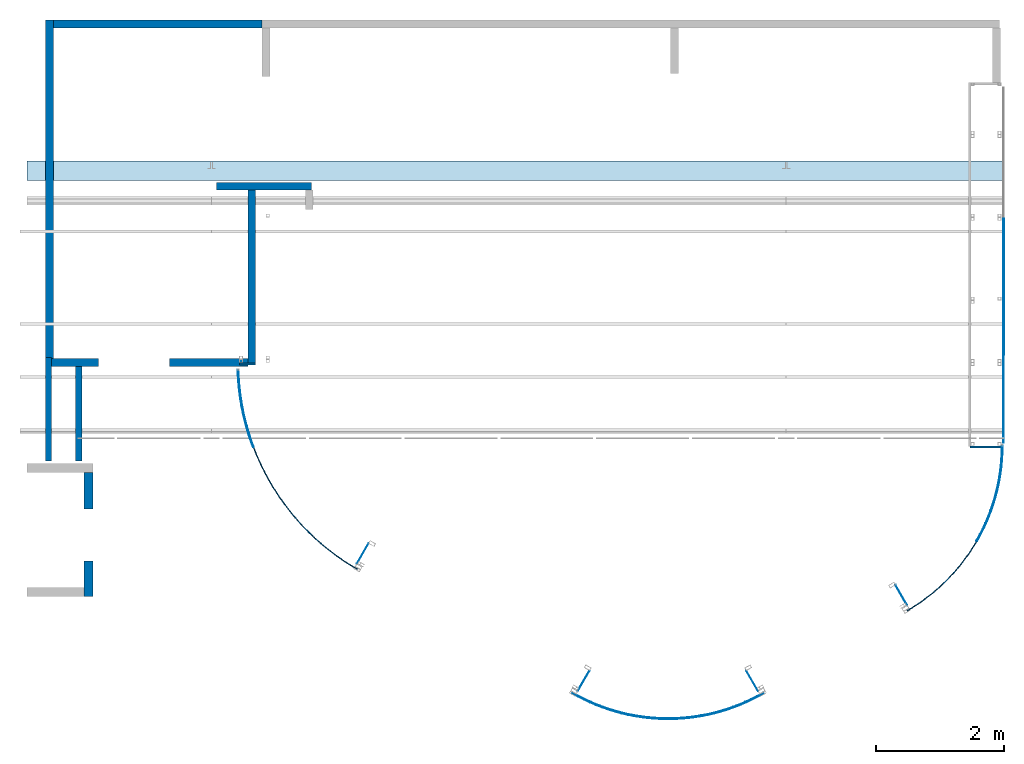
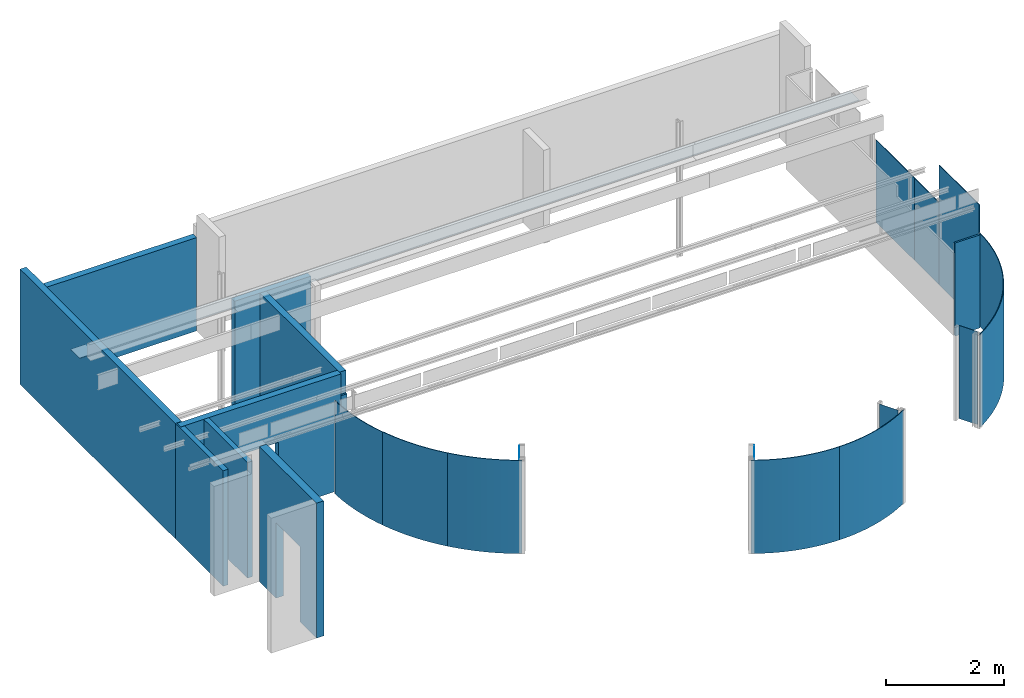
# One storey, part 7 of 11: 24 walls, 1 slab, 2 openings, 1 element without a shape of its own.
"""IFC2X3 building model written with IfcOpenShell, lengths in millimetres."""

from ifc_helpers import new_model, entity, si_unit, converted_unit, derived_unit, direction, frame, frame_2d, origin, origin_with_axes, origin_2d_with_axis, place, context, subcontext, project, spatial, polyline, circle_curve, parameter, trimmed, segment, composite_curve, rectangle, outline, extrude, clip, halfspace, bounded_halfspace, faceted_brep, material, layer, layer_set, layer_usage, type_object, element, aggregate, save


model = new_model("IFC2X3")

# Units and contexts
model_context = context("Model", 3, precision=0.01, world=frame((0.0, 4.29681676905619e-09, 0.0)), true_north=direction((4.01073788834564e-13, 1.0)))
plan_context = context("Plan", 3, precision=0.01, world=frame((0.0, 4.29681676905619e-09, 0.0)), true_north=direction((4.01073788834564e-13, 1.0)))
body_context = subcontext(model_context, "Body", "Model", "MODEL_VIEW")
ifc_project = project(units=[converted_unit("PLANEANGLEUNIT", "DEGREE", entity("IfcPositiveLengthMeasure", 0.0174532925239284), si_unit("PLANEANGLEUNIT", "RADIAN"), dimensions=[0, 0, 0, 0, 0, 0, 0]), si_unit("AREAUNIT", "SQUARE_METRE"), si_unit("LENGTHUNIT", "METRE", prefix="MILLI"), si_unit("MASSUNIT", "GRAM", prefix="KILO"), si_unit("POWERUNIT", "WATT"), si_unit("PRESSUREUNIT", "PASCAL"), si_unit("FORCEUNIT", "NEWTON", prefix="KILO"), si_unit("ELECTRICVOLTAGEUNIT", "VOLT"), si_unit("ELECTRICCURRENTUNIT", "AMPERE"), si_unit("THERMODYNAMICTEMPERATUREUNIT", "DEGREE_CELSIUS"), si_unit("TIMEUNIT", "SECOND"), si_unit("VOLUMEUNIT", "CUBIC_METRE"), derived_unit("LINEARVELOCITYUNIT", [(si_unit("LENGTHUNIT", "METRE"), 1), (si_unit("TIMEUNIT", "SECOND"), -1)]), derived_unit("VOLUMETRICFLOWRATEUNIT", [(si_unit("VOLUMEUNIT", "CUBIC_METRE"), 1), (si_unit("TIMEUNIT", "SECOND"), -1)]), derived_unit("THERMALTRANSMITTANCEUNIT", [(si_unit("POWERUNIT", "WATT"), 1), (si_unit("THERMODYNAMICTEMPERATUREUNIT", "KELVIN"), -1), (si_unit("AREAUNIT", "SQUARE_METRE"), -1)]), derived_unit("SOUNDPRESSUREUNIT", [(si_unit("PRESSUREUNIT", "PASCAL"), 1)])], contexts=[model_context, plan_context])

# Site, building, storey
site_placement = place(None, origin_with_axes())
site = spatial("IfcSite", under=ifc_project, at=site_placement, Name="ENGM", CompositionType="ELEMENT")
building_placement = place(site_placement, origin_with_axes())
building = spatial("IfcBuilding", under=site, at=building_placement, Name="TH", CompositionType="ELEMENT")
storey_placement = place(building_placement, frame((0.0, 0.0, 210900.0), z_axis=(0.0, 0.0, 1.0), x_axis=(1.0, 0.0, 0.0)))
storey = spatial("IfcBuildingStorey", under=building, at=storey_placement, Name="Nivå F", CompositionType="ELEMENT", Elevation=210900.0)

# Roof, slab
ifc_material_1 = material(Name="_NSW X-finer med skarvur horrisontal")
roof_placement = place(storey_placement, origin_with_axes())
roof = element("IfcRoof", 1, at=roof_placement, inside=storey, material=ifc_material_1, Name="A255 - X-finer 7 - 18mm:A255 - X-finer 7 - 18mm", ObjectType="A255 - X-finer 7 - 18mm:A255 - X-finer 7 - 18mm", ShapeType="NOTDEFINED")
slab_type = type_object("IfcSlabType", Name="A255 - X-finer 7 - 18mm:A255 - X-finer 7 - 18mm", PredefinedType="ROOF")
slab_placement = place(roof_placement, origin_with_axes())
slab = element("IfcSlab", 2, at=slab_placement, type_object=slab_type, Name="A255 - X-finer 7 - 18mm:A255 - X-finer 7 - 18mm:1", ObjectType="A255 - X-finer 7 - 18mm:A255 - X-finer 7 - 18mm", PredefinedType="ROOF", context=body_context, shape_type="Brep", body=[
    faceted_brep([(895111.906168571, 484840.299999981, 2154.0), (895111.906168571, 484840.299999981, 2172.0), (910410.5848418, 484840.299999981, 2172.0), (910410.5848418, 484840.299999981, 2154.0), (910410.5848418, 485150.507291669, 2154.0), (910410.5848418, 485150.507291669, 2172.0), (895111.906168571, 485150.507291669, 2172.0), (895111.906168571, 485150.507291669, 2154.0)], [[[0, 1, 2, 3]], [[4, 5, 6, 7]], [[7, 0, 3, 4]], [[1, 6, 5, 2]], [[5, 4, 3, 2]], [[7, 6, 1, 0]]], orient=[[False], [False], [False], [False], [False], [False]]),
])
aggregate(roof, [slab])

# Wall, opening
ifc_material_2 = material(Name="T2_Gips Protect F")
ifc_layer_1 = layer(ifc_material_2, 15.0)
ifc_material_3 = material(Name="T2_Gips Standard")
ifc_layer_2 = layer(ifc_material_3, 12.5)
ifc_material_4 = material(Name="_NSW Stålstender, uisolert")
ifc_layer_3 = layer(ifc_material_4, 100.0)
ifc_layer_4 = layer(ifc_material_2, 15.0)
ifc_layer_set_1 = layer_set([ifc_layer_1, ifc_layer_2, ifc_layer_3, ifc_layer_4], Name="Basic Wall:A241 - FSVF-100 (100/100 ps-p)")
ifc_layer_usage_1 = layer_usage(ifc_layer_set_1, "AXIS2", "NEGATIVE", 71.25)
wall_type_1 = type_object("IfcWallType", Name="Basic Wall:A241 - FSVF-100 (100/100 ps-p)", PredefinedType="STANDARD", material=ifc_layer_set_1)
wall_1_placement = place(storey_placement, frame((896071.249999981, 480271.249999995, 0.0), z_axis=(0.0, 0.0, 1.0), x_axis=(0.0, -1.0, 0.0)))
wall_1 = element("IfcWallStandardCase", 3, at=wall_1_placement, inside=storey, type_object=wall_type_1, material=ifc_layer_usage_1, Name="Basic Wall:A241 - FSVF-100 (100/100 ps-p)", ObjectType="Basic Wall:A241 - FSVF-100 (100/100 ps-p)", context=body_context, shape_type="Clipping", body=[
    clip(extrude(rectangle(XDim=1944.99999999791, YDim=142.500000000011, at=frame_2d((972.499999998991, -2.03712602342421e-11), x_axis=(1.0, 0.0))), origin(), (0.0, 0.0, 1.0), 2799.99999999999), halfspace(frame((0.0, 0.0, -700.0)), True)),
])
opening_1_placement = place(wall_1_placement, frame((480271.249999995, -896071.249999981, -700.0), z_axis=(0.0, 0.0, 1.0), x_axis=(0.0, 1.0, 0.0)))
element("IfcOpeningElement", 4, at=opening_1_placement, cuts=wall_1, Name="Basic Wall:A241 - FSVF-100 (100/100 ps-p)", ObjectType="Opening", context=body_context, shape_type="SweptSolid", body=[
    extrude(rectangle(XDim=2259.99999999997, YDim=809.999999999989, at=frame_2d((0.0, 0.0), x_axis=(0.0, 1.0))), frame((894475.999999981, 479292.512500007, 1130.0), z_axis=(1.0, 0.0, 0.0), x_axis=(0.0, 1.0, 0.0)), (0.0, 0.0, 1.0), 3048.0),
])

# Walls
ifc_material_5 = material(Name="Glass(Avinor)")
ifc_layer_5 = layer(ifc_material_5, 14.0)
ifc_layer_set_2 = layer_set([ifc_layer_5], Name="Basic Wall:A242 - IGV Glass 14mm")
ifc_layer_usage_2 = layer_usage(ifc_layer_set_2, "AXIS2", "POSITIVE", -7.0)
wall_type_2 = type_object("IfcWallType", Name="Basic Wall:A242 - IGV Glass 14mm", PredefinedType="STANDARD", material=ifc_layer_set_2)
wall_2_placement = place(storey_placement, frame((898656.201468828, 480668.98362984, 0.0), z_axis=(0.0, 0.0, 1.0), x_axis=(0.999801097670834, 0.0199440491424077, 0.0)))
element("IfcWallStandardCase", 5, at=wall_2_placement, inside=storey, type_object=wall_type_2, material=ifc_layer_usage_2, Name="Basic Wall:A242 - IGV Glass 14mm", ObjectType="Basic Wall:A242 - IGV Glass 14mm", context=body_context, shape_type="Clipping", body=[
    clip(clip(extrude(outline(composite_curve([segment(trimmed(circle_curve(frame_2d((3519.43879128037, 1250.51013366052), x_axis=(1.0, 0.0)), 3741.99999999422), [parameter(180.584579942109)], [parameter(199.560899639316)], True, "PARAMETER"), True, "CONTINUOUS"), segment(polyline([(-6.59600308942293, -2.34366022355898), (6.59600308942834, 2.3436602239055)]), True, "CONTINUOUS"), segment(trimmed(circle_curve(frame_2d((3519.43879128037, 1250.51013366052), x_axis=(1.0, 0.0)), 3727.99999999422), [parameter(180.584579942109)], [parameter(199.560899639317)], True, "PARAMETER"), False, "CONTINUOUS"), segment(polyline([(-208.367171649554, 1212.47458841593), (-222.366442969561, 1212.33175106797)]), True, "CONTINUOUS")], self_intersect=False)), origin(), (0.0, 0.0, 1.0), 1929.99999999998), bounded_halfspace(frame((6.59600308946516, 2.3436602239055, 1930.0), z_axis=(-0.334808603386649, 0.942286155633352, 0.0), x_axis=(0.0, 0.0, -1.0)), True, frame((6.59600308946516, 2.3436602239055, 1930.0), z_axis=(-0.334808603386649, 0.942286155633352, 0.0), x_axis=(0.0, 0.0, -1.0)), polyline([(0.0, 0.0), (2630.0, 0.0), (2630.0, 14.0), (0.0, 14.0), (0.0, 0.0)]))), halfspace(frame((0.0, 0.0, -700.0)), True)),
])
ifc_layer_usage_3 = layer_usage(ifc_layer_set_2, "AXIS2", "POSITIVE", -7.0)
wall_3_placement = place(storey_placement, frame((899298.353254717, 479577.31421084, 0.0), z_axis=(0.0, 0.0, 1.0), x_axis=(0.999922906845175, 0.0124169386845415, 0.0)))
element("IfcWallStandardCase", 6, at=wall_3_placement, inside=storey, type_object=wall_type_2, material=ifc_layer_usage_3, Name="Basic Wall:A242 - IGV Glass 14mm", ObjectType="Basic Wall:A242 - IGV Glass 14mm", context=body_context, shape_type="Clipping", body=[
    clip(extrude(outline(composite_curve([segment(trimmed(circle_curve(frame_2d((2881.37808227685, 2376.52800255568), x_axis=(1.0, 0.0)), 3741.99999999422), [parameter(199.992228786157)], [parameter(219.515425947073)], True, "PARAMETER"), True, "CONTINUOUS"), segment(polyline([(-5.40017311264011, -4.4540016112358), (5.40017311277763, 4.4540016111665)]), True, "CONTINUOUS"), segment(trimmed(circle_curve(frame_2d((2881.37808227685, 2376.52800255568), x_axis=(1.0, 0.0)), 3727.99999999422), [parameter(199.992228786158)], [parameter(219.515425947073)], True, "PARAMETER"), False, "CONTINUOUS"), segment(polyline([(-621.968915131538, 1101.95206691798), (-635.125261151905, 1097.16556930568)]), True, "CONTINUOUS")], self_intersect=False)), origin(), (0.0, 0.0, 1.0), 1934.99999999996), halfspace(frame((0.0, 0.0, -700.0)), True)),
])
ifc_layer_usage_4 = layer_usage(ifc_layer_set_2, "AXIS2", "POSITIVE", -7.0)
wall_4_placement = place(storey_placement, frame((900282.500000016, 478754.832011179, 0.0), z_axis=(0.0, 0.0, 1.0), x_axis=(0.999992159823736, 0.00395983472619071, 0.0)))
element("IfcWallStandardCase", 7, at=wall_4_placement, inside=storey, type_object=wall_type_2, material=ifc_layer_usage_4, Name="Basic Wall:A242 - IGV Glass 14mm", ObjectType="Basic Wall:A242 - IGV Glass 14mm", context=body_context, shape_type="Clipping", body=[
    clip(extrude(outline(composite_curve([segment(trimmed(circle_curve(frame_2d((1880.29385917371, 3227.18453192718), x_axis=(1.0, 0.0)), 3741.99999999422), [parameter(220.000000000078)], [parameter(239.773117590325)], True, "PARAMETER"), True, "CONTINUOUS"), segment(polyline([(-3.52397778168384, -6.0482708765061), (3.52397778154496, 6.0482708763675)]), True, "CONTINUOUS"), segment(trimmed(circle_curve(frame_2d((1880.29385917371, 3227.18453192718), x_axis=(1.0, 0.0)), 3727.99999999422), [parameter(220.000000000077)], [parameter(239.773117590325)], True, "PARAMETER"), False, "CONTINUOUS"), segment(polyline([(-975.519824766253, 830.872323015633), (-986.244446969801, 821.873296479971)]), True, "CONTINUOUS")], self_intersect=False)), origin(), (0.0, 0.0, 1.0), 1935.00000000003), halfspace(frame((0.0, 0.0, -700.0)), True)),
])
ifc_layer_usage_5 = layer_usage(ifc_layer_set_2, "AXIS2", "NEGATIVE", 7.0)
wall_5_placement = place(storey_placement, frame((903655.028382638, 476813.265972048, 0.0), z_axis=(0.0, 0.0, 1.0), x_axis=(1.0, 0.0, 0.0)))
element("IfcWallStandardCase", 8, at=wall_5_placement, inside=storey, type_object=wall_type_2, material=ifc_layer_usage_5, Name="Basic Wall:A242 - IGV Glass 14mm", ObjectType="Basic Wall:A242 - IGV Glass 14mm", context=body_context, shape_type="Clipping", body=[
    clip(extrude(outline(composite_curve([segment(trimmed(circle_curve(frame_2d((1493.59777639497, 2584.02466175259), x_axis=(1.0, 0.0)), 2977.63025686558), [parameter(239.971563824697)], [parameter(270.007668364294)], True, "PARAMETER"), False, "CONTINUOUS"), segment(polyline([(3.50300825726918, 6.06044001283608), (-3.50300825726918, -6.06044001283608)]), True, "CONTINUOUS"), segment(trimmed(circle_curve(frame_2d((1493.59777639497, 2584.02466175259), x_axis=(1.0, 0.0)), 2991.63025686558), [parameter(239.971563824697)], [parameter(270.007668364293)], True, "PARAMETER"), True, "CONTINUOUS"), segment(polyline([(1493.99817081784, -407.605568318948), (1493.99629708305, -393.605568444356)]), True, "CONTINUOUS")], self_intersect=False)), origin(), (0.0, 0.0, 1.0), 1934.99999999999), halfspace(frame((0.0, 0.0, -700.0)), True)),
])
ifc_layer_usage_6 = layer_usage(ifc_layer_set_2, "AXIS2", "NEGATIVE", 7.0)
wall_6_placement = place(storey_placement, frame((905149.025616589, 476412.660403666, 0.0), z_axis=(0.0, 0.0, 1.0), x_axis=(1.0, 0.0, 0.0)))
element("IfcWallStandardCase", 9, at=wall_6_placement, inside=storey, type_object=wall_type_2, material=ifc_layer_usage_6, Name="Basic Wall:A242 - IGV Glass 14mm", ObjectType="Basic Wall:A242 - IGV Glass 14mm", context=body_context, shape_type="Clipping", body=[
    clip(extrude(outline(composite_curve([segment(trimmed(circle_curve(frame_2d((-0.399457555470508, 2984.63023013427), x_axis=(1.0, 0.0)), 2977.63025686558), [parameter(270.007668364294)], [parameter(300.028436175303)], True, "PARAMETER"), False, "CONTINUOUS"), segment(polyline([(-0.000936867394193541, 6.99999993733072), (0.000936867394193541, -6.99999993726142)]), True, "CONTINUOUS"), segment(trimmed(circle_curve(frame_2d((-0.399457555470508, 2984.63023013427), x_axis=(1.0, 0.0)), 2991.63025686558), [parameter(270.007668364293)], [parameter(300.028436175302)], True, "PARAMETER"), True, "CONTINUOUS"), segment(polyline([(1496.70132709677, 394.54512836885), (1489.69531058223, 406.666008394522)]), True, "CONTINUOUS")], self_intersect=False)), origin(), (0.0, 0.0, 1.0), 1934.99999999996), halfspace(frame((0.0, 0.0, -700.0)), True)),
])
ifc_layer_usage_7 = layer_usage(ifc_layer_set_2, "AXIS2", "POSITIVE", -7.0)
wall_7_placement = place(storey_placement, frame((910384.985262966, 480690.397378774, 0.0), z_axis=(0.0, 0.0, 1.0), x_axis=(1.0, 0.0, 0.0)))
element("IfcWallStandardCase", 10, at=wall_7_placement, inside=storey, type_object=wall_type_2, material=ifc_layer_usage_7, Name="Basic Wall:A242 - IGV Glass 14mm", ObjectType="Basic Wall:A242 - IGV Glass 14mm", context=body_context, shape_type="Clipping", body=[
    clip(extrude(outline(composite_curve([segment(trimmed(circle_curve(frame_2d((-2985.0, -0.00709854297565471), x_axis=(1.0, 0.0)), 2992.0), [parameter(330.002379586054)], [parameter(0.000136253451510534)], True, "PARAMETER"), True, "CONTINUOUS"), segment(polyline([(7.0, 1.66464918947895e-05), (-7.0, -1.66464918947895e-05)]), True, "CONTINUOUS"), segment(trimmed(circle_curve(frame_2d((-2985.0, -0.00709854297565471), x_axis=(1.0, 0.0)), 2978.0), [parameter(330.002379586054)], [parameter(0.000136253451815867)], True, "PARAMETER"), False, "CONTINUOUS"), segment(polyline([(-405.914509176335, -1488.89998625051), (-393.789862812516, -1495.89948270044)]), True, "CONTINUOUS")], self_intersect=False)), origin(), (0.0, 0.0, 1.0), 1934.99999999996), halfspace(frame((0.0, 0.0, -700.0)), True)),
])
ifc_layer_usage_8 = layer_usage(ifc_layer_set_2, "AXIS2", "POSITIVE", -7.0)
wall_8_placement = place(storey_placement, frame((909985.133076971, 479197.997644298, 0.0), z_axis=(0.0, 0.0, 1.0), x_axis=(1.0, 0.0, 0.0)))
element("IfcWallStandardCase", 11, at=wall_8_placement, inside=storey, type_object=wall_type_2, material=ifc_layer_usage_8, Name="Basic Wall:A242 - IGV Glass 14mm", ObjectType="Basic Wall:A242 - IGV Glass 14mm", context=body_context, shape_type="Clipping", body=[
    clip(extrude(outline(composite_curve([segment(trimmed(circle_curve(frame_2d((-2585.14781399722, 1492.3926359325), x_axis=(1.0, 0.0)), 2992.0), [parameter(300.000323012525)], [parameter(330.002379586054)], True, "PARAMETER"), True, "CONTINUOUS"), segment(polyline([(6.06232318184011, -3.4997482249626), (-6.06232318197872, 3.4997482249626)]), True, "CONTINUOUS"), segment(trimmed(circle_curve(frame_2d((-2585.14781399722, 1492.3926359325), x_axis=(1.0, 0.0)), 2978.0), [parameter(300.000323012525)], [parameter(330.002379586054)], True, "PARAMETER"), False, "CONTINUOUS"), segment(polyline([(-1096.13327443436, -1086.62262206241), (-1089.13320608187, -1098.74693825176)]), True, "CONTINUOUS")], self_intersect=False)), origin(), (0.0, 0.0, 1.0), 1934.99999999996), halfspace(frame((0.0, 0.0, -700.0)), True)),
])
ifc_material_6 = material(Name="Kledning")
ifc_layer_6 = layer(ifc_material_6, 14.0)
ifc_layer_set_3 = layer_set([ifc_layer_6], Name="Basic Wall:A242 - IGV Glass Opal 14mm")
ifc_layer_usage_9 = layer_usage(ifc_layer_set_3, "AXIS2", "NEGATIVE", 7.0)
wall_type_3 = type_object("IfcWallType", Name="Basic Wall:A242 - IGV Glass Opal 14mm", PredefinedType="STANDARD", material=ifc_layer_set_3)
wall_9_placement = place(storey_placement, frame((910403.5848418, 480739.436894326, 0.0), z_axis=(0.0, 0.0, 1.0), x_axis=(0.0, 1.0, 0.0)))
element("IfcWallStandardCase", 12, at=wall_9_placement, inside=storey, type_object=wall_type_3, material=ifc_layer_usage_9, Name="Basic Wall:A242 - IGV Glass Opal 14mm", ObjectType="Basic Wall:A242 - IGV Glass Opal 14mm", context=body_context, shape_type="Clipping", body=[
    clip(extrude(rectangle(XDim=1371.86310576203, YDim=13.9999999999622, at=frame_2d((685.931552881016, 0.0), x_axis=(-1.0, 0.0))), origin(), (0.0, 0.0, 1.0), 2484.99999999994), halfspace(frame((0.0, 0.0, -700.0)), True)),
])
ifc_layer_usage_10 = layer_usage(ifc_layer_set_3, "AXIS2", "POSITIVE", -7.0)
wall_10_placement = place(storey_placement, frame((910404.000000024, 482940.300000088, 0.0), z_axis=(0.0, 0.0, 1.0), x_axis=(0.0, 1.0, 0.0)))
element("IfcWallStandardCase", 13, at=wall_10_placement, inside=storey, type_object=wall_type_3, material=ifc_layer_usage_10, Name="Basic Wall:A242 - IGV Glass Opal 14mm", ObjectType="Basic Wall:A242 - IGV Glass Opal 14mm", context=body_context, shape_type="Clipping", body=[
    clip(extrude(rectangle(XDim=1301.99999999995, YDim=13.9999999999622, at=frame_2d((650.999999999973, 0.0), x_axis=(-1.0, 0.0))), origin(), (0.0, 0.0, 1.0), 1705.65796731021), halfspace(frame((0.0, 0.0, -700.0)), True)),
])
ifc_layer_usage_11 = layer_usage(ifc_layer_set_3, "AXIS2", "POSITIVE", -7.0)
wall_11_placement = place(storey_placement, frame((910404.000000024, 482111.300000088, 0.0), z_axis=(0.0, 0.0, 1.0), x_axis=(0.0, 1.0, 0.0)))
element("IfcWallStandardCase", 14, at=wall_11_placement, inside=storey, type_object=wall_type_3, material=ifc_layer_usage_11, Name="Basic Wall:A242 - IGV Glass Opal 14mm", ObjectType="Basic Wall:A242 - IGV Glass Opal 14mm", context=body_context, shape_type="SweptSolid", body=[
    extrude(rectangle(XDim=13.9999999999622, YDim=829.000000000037, at=origin_2d_with_axis()), frame((414.500000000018, 0.0, 0.0), z_axis=(0.0, 0.0, 1.0), x_axis=(0.0, 1.0, 0.0)), (0.0, 0.0, 1.0), 1705.65796731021),
])
ifc_layer_7 = layer(ifc_material_2, 12.5)
ifc_material_7 = material(Name="T2_X-finer")
ifc_layer_8 = layer(ifc_material_7, 12.0)
ifc_layer_9 = layer(ifc_material_7, 12.0)
ifc_layer_set_4 = layer_set([ifc_layer_7, ifc_layer_8, ifc_layer_9], Name="Basic Wall:A241 - FFS")
ifc_layer_usage_12 = layer_usage(ifc_layer_set_4, "AXIS2", "NEGATIVE", 18.25)
wall_type_4 = type_object("IfcWallType", Name="Basic Wall:A241 - FFS", PredefinedType="STANDARD", material=ifc_layer_set_4)
wall_12_placement = place(storey_placement, frame((910365.000000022, 480671.186894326, 0.0), z_axis=(0.0, 0.0, 1.0), x_axis=(-1.0, 0.0, 0.0)))
element("IfcWallStandardCase", 15, at=wall_12_placement, inside=storey, type_object=wall_type_4, material=ifc_layer_usage_12, Name="Basic Wall:A241 - FFS", ObjectType="Basic Wall:A241 - FFS", context=body_context, shape_type="Clipping", body=[
    clip(extrude(rectangle(XDim=488.601762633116, YDim=36.5000000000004, at=frame_2d((244.300881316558, 0.0), x_axis=(-1.0, 0.0))), origin(), (0.0, 0.0, 1.0), 1929.99999999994), halfspace(frame((0.0, 0.0, -700.0)), True)),
])
ifc_layer_usage_13 = layer_usage(ifc_layer_set_4, "AXIS2", "POSITIVE", -18.25)
wall_13_placement = place(storey_placement, frame((898434.999999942, 481971.186894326, 0.0), z_axis=(0.0, 0.0, 1.0), x_axis=(1.0, 0.0, 0.0)))
element("IfcWallStandardCase", 16, at=wall_13_placement, inside=storey, type_object=wall_type_4, material=ifc_layer_usage_13, Name="Basic Wall:A241 - FFS", ObjectType="Basic Wall:A241 - FFS", context=body_context, shape_type="Clipping", body=[
    clip(extrude(rectangle(XDim=257.141536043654, YDim=36.5000000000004, at=frame_2d((128.570768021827, 0.0), x_axis=(-1.0, 0.0))), origin(), (0.0, 0.0, 1.0), 1929.99999999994), halfspace(frame((0.0, 0.0, -700.0)), True)),
])
ifc_material_8 = material(Name="T2 Stål Galvanisert")
ifc_layer_10 = layer(ifc_material_8, 5.0)
ifc_layer_set_5 = layer_set([ifc_layer_10], Name="Basic Wall:A245 - MP-5 Metallplate 5mm")
ifc_layer_usage_14 = layer_usage(ifc_layer_set_5, "AXIS2", "POSITIVE", -2.5)
wall_type_5 = type_object("IfcWallType", Name="Basic Wall:A245 - MP-5 Metallplate 5mm", PredefinedType="STANDARD", material=ifc_layer_set_5)
wall_14_placement = place(storey_placement, frame((908896.591993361, 478188.530285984, 0.0), z_axis=(0.0, 0.0, 1.0), x_axis=(-0.50000000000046, 0.866025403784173, 0.0)))
element("IfcWallStandardCase", 17, at=wall_14_placement, inside=storey, type_object=wall_type_5, material=ifc_layer_usage_14, Name="Basic Wall:A245 - MP-5 Metallplate 5mm", ObjectType="Basic Wall:A245 - MP-5 Metallplate 5mm", context=body_context, shape_type="Clipping", body=[
    clip(extrude(rectangle(XDim=369.997631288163, YDim=5.00000000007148, at=frame_2d((184.998815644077, -7.7333472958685e-11), x_axis=(-1.0, 0.0))), origin(), (0.0, 0.0, 1.0), 1929.99999999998), halfspace(frame((0.0, 0.0, -700.0)), True)),
])
ifc_layer_usage_15 = layer_usage(ifc_layer_set_5, "AXIS2", "NEGATIVE", 2.5)
wall_15_placement = place(storey_placement, frame((906561.298267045, 476847.37767056, 0.0), z_axis=(0.0, 0.0, 1.0), x_axis=(-0.500000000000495, 0.866025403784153, 0.0)))
element("IfcWallStandardCase", 18, at=wall_15_placement, inside=storey, type_object=wall_type_5, material=ifc_layer_usage_15, Name="Basic Wall:A245 - MP-5 Metallplate 5mm", ObjectType="Basic Wall:A245 - MP-5 Metallplate 5mm", context=body_context, shape_type="Clipping", body=[
    clip(extrude(rectangle(XDim=369.997631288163, YDim=5.00000000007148, at=frame_2d((184.998815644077, -7.7333472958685e-11), x_axis=(-1.0, 0.0))), origin(), (0.0, 0.0, 1.0), 1929.99999999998), halfspace(frame((0.0, 0.0, -700.0)), True)),
])
ifc_layer_usage_16 = layer_usage(ifc_layer_set_5, "AXIS2", "POSITIVE", -2.5)
wall_16_placement = place(storey_placement, frame((903734.915502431, 476847.976300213, 0.0), z_axis=(0.0, 0.0, 1.0), x_axis=(0.500000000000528, 0.866025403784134, 0.0)))
element("IfcWallStandardCase", 19, at=wall_16_placement, inside=storey, type_object=wall_type_5, material=ifc_layer_usage_16, Name="Basic Wall:A245 - MP-5 Metallplate 5mm", ObjectType="Basic Wall:A245 - MP-5 Metallplate 5mm", context=body_context, shape_type="Clipping", body=[
    clip(extrude(rectangle(XDim=369.997631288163, YDim=5.00000000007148, at=frame_2d((184.998815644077, -7.7333472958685e-11), x_axis=(-1.0, 0.0))), origin(), (0.0, 0.0, 1.0), 1929.99999999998), halfspace(frame((0.0, 0.0, -700.0)), True)),
])
ifc_layer_usage_17 = layer_usage(ifc_layer_set_5, "AXIS2", "NEGATIVE", 2.5)
wall_17_placement = place(storey_placement, frame((900275.401569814, 478839.91679196, 0.0), z_axis=(0.0, 0.0, 1.0), x_axis=(0.500000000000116, 0.866025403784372, 0.0)))
element("IfcWallStandardCase", 20, at=wall_17_placement, inside=storey, type_object=wall_type_5, material=ifc_layer_usage_17, Name="Basic Wall:A245 - MP-5 Metallplate 5mm", ObjectType="Basic Wall:A245 - MP-5 Metallplate 5mm", context=body_context, shape_type="Clipping", body=[
    clip(extrude(rectangle(XDim=369.997631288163, YDim=5.00000000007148, at=frame_2d((184.998815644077, -7.7333472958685e-11), x_axis=(-1.0, 0.0))), origin(), (0.0, 0.0, 1.0), 1929.99999999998), halfspace(frame((0.0, 0.0, -700.0)), True)),
])

# Wall, opening
ifc_material_9 = material(Name="Plate - Gips")
ifc_layer_11 = layer(ifc_material_9, 12.5)
ifc_material_10 = material(Name="_NSW X-finer")
ifc_layer_12 = layer(ifc_material_10, 12.5)
ifc_material_11 = material(Name="_NSW Isolasjon")
ifc_layer_13 = layer(ifc_material_11, 75.0)
ifc_layer_14 = layer(ifc_material_10, 12.5)
ifc_layer_15 = layer(ifc_material_9, 12.5)
ifc_layer_set_6 = layer_set([ifc_layer_11, ifc_layer_12, ifc_layer_13, ifc_layer_14, ifc_layer_15], Name="Basic Wall:A241 - SXVXS-75")
ifc_layer_usage_18 = layer_usage(ifc_layer_set_6, "AXIS2", "NEGATIVE", 62.5)
wall_type_6 = type_object("IfcWallType", Name="Basic Wall:A241 - SXVXS-75", PredefinedType="STANDARD", material=ifc_layer_set_6)
wall_18_placement = place(storey_placement, frame((898567.141535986, 481996.201352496, 0.0), z_axis=(0.0, 0.0, 1.0), x_axis=(-1.0, 0.0, 0.0)))
wall_18 = element("IfcWallStandardCase", 21, at=wall_18_placement, inside=storey, type_object=wall_type_6, material=ifc_layer_usage_18, Name="Basic Wall:A241 - SXVXS-75", ObjectType="Basic Wall:A241 - SXVXS-75", context=body_context, shape_type="Clipping", body=[
    clip(extrude(rectangle(XDim=3145.89153581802, YDim=124.999999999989, at=frame_2d((1572.94576790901, 3.46496165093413e-11), x_axis=(1.0, 0.0))), origin(), (0.0, 0.0, 1.0), 2399.99999999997), halfspace(frame((0.0, 0.0, -700.0)), True)),
])
opening_2_placement = place(wall_18_placement, frame((898567.141535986, 481996.201352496, -700.0), z_axis=(0.0, 0.0, 1.0), x_axis=(-1.0, 0.0, 0.0)))
element("IfcOpeningElement", 22, at=opening_2_placement, cuts=wall_18, Name="Basic Wall:A241 - SXVXS-75", ObjectType="Opening", context=body_context, shape_type="SweptSolid", body=[
    extrude(rectangle(XDim=2109.99999999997, YDim=1109.99999999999, at=frame_2d((6.93489710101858e-11, -3.46744855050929e-11), x_axis=(0.0, 1.0))), frame((896786.250000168, 483582.701352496, 1055.0), z_axis=(0.0, -1.0, 0.0), x_axis=(1.0, 0.0, 0.0)), (0.0, 0.0, 1.0), 3048.0),
])

# Walls
ifc_layer_usage_19 = layer_usage(ifc_layer_set_6, "AXIS2", "NEGATIVE", 62.5)
wall_19_placement = place(storey_placement, frame((895458.750000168, 482058.701352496, 0.0), z_axis=(0.0, 0.0, 1.0), x_axis=(0.0, 1.0, 0.0)))
element("IfcWallStandardCase", 23, at=wall_19_placement, inside=storey, type_object=wall_type_6, material=ifc_layer_usage_19, Name="Basic Wall:A241 - SXVXS-75", ObjectType="Basic Wall:A241 - SXVXS-75", context=body_context, shape_type="Clipping", body=[
    clip(extrude(rectangle(XDim=5298.94864751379, YDim=125.000000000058, at=frame_2d((2649.4743237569, 0.0), x_axis=(-1.0, 0.0))), origin(), (0.0, 0.0, 1.0), 2394.99999999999), halfspace(frame((0.0, 0.0, -700.0)), True)),
])
ifc_layer_usage_20 = layer_usage(ifc_layer_set_6, "AXIS2", "NEGATIVE", 62.5)
wall_20_placement = place(storey_placement, frame((895521.250000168, 487295.15000001, 0.0), z_axis=(0.0, 0.0, 1.0), x_axis=(1.0, 0.0, 0.0)))
element("IfcWallStandardCase", 24, at=wall_20_placement, inside=storey, type_object=wall_type_6, material=ifc_layer_usage_20, Name="Basic Wall:A241 - SXVXS-75", ObjectType="Basic Wall:A241 - SXVXS-75", context=body_context, shape_type="Clipping", body=[
    clip(extrude(rectangle(XDim=3270.24999981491, YDim=124.999999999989, at=frame_2d((1635.12499990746, 3.46496165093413e-11), x_axis=(-1.0, 0.0))), origin(), (0.0, 0.0, 1.0), 1934.99999999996), halfspace(frame((0.0, 0.0, -700.0)), True)),
])
ifc_layer_usage_21 = layer_usage(ifc_layer_set_6, "AXIS2", "POSITIVE", -62.5)
wall_21_placement = place(storey_placement, frame((898629.641535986, 484696.811718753, 0.0), z_axis=(0.0, 0.0, 1.0), x_axis=(0.0, -1.0, 0.0)))
element("IfcWallStandardCase", 25, at=wall_21_placement, inside=storey, type_object=wall_type_6, material=ifc_layer_usage_21, Name="Basic Wall:A241 - SXVXS-75", ObjectType="Basic Wall:A241 - SXVXS-75", context=body_context, shape_type="Clipping", body=[
    clip(extrude(rectangle(XDim=2707.37482442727, YDim=125.000000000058, at=frame_2d((1353.68741221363, 0.0), x_axis=(-1.0, 0.0))), origin(), (0.0, 0.0, 1.0), 2399.99999999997), halfspace(frame((0.0, 0.0, -700.0)), True)),
])
ifc_layer_16 = layer(ifc_material_9, 12.5)
ifc_layer_17 = layer(ifc_material_4, 75.0)
ifc_layer_18 = layer(ifc_material_9, 12.5)
ifc_layer_19 = layer(ifc_material_9, 12.5)
ifc_layer_set_7 = layer_set([ifc_layer_16, ifc_layer_17, ifc_layer_18, ifc_layer_19], Name="Basic Wall:A241 - RVR-77 (75/75 r-rr)")
ifc_layer_usage_22 = layer_usage(ifc_layer_set_7, "AXIS2", "NEGATIVE", 56.25)
wall_type_7 = type_object("IfcWallType", Name="Basic Wall:A241 - RVR-77 (75/75 r-rr)", PredefinedType="STANDARD", material=ifc_layer_set_7)
wall_22_placement = place(storey_placement, frame((898074.999999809, 484753.061718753, 0.0), z_axis=(0.0, 0.0, 1.0), x_axis=(1.0, 0.0, 0.0)))
element("IfcWallStandardCase", 26, at=wall_22_placement, inside=storey, type_object=wall_type_7, material=ifc_layer_usage_22, Name="Basic Wall:A241 - RVR-77 (75/75 r-rr)", ObjectType="Basic Wall:A241 - RVR-77 (75/75 r-rr)", context=body_context, shape_type="Clipping", body=[
    clip(extrude(rectangle(XDim=1492.14153617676, YDim=112.499999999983, at=frame_2d((746.070768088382, 3.46531692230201e-11), x_axis=(-1.0, 0.0))), origin(), (0.0, 0.0, 1.0), 2399.99999999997), halfspace(frame((0.0, 0.0, -700.0)), True)),
])
ifc_layer_20 = layer(ifc_material_11, 75.0)
ifc_layer_21 = layer(ifc_material_10, 12.5)
ifc_layer_22 = layer(ifc_material_9, 12.5)
ifc_layer_set_8 = layer_set([ifc_layer_20, ifc_layer_21, ifc_layer_22], Name="Basic Wall:A241 - SXV-75")
ifc_layer_usage_23 = layer_usage(ifc_layer_set_8, "AXIS2", "POSITIVE", -50.0)
wall_type_8 = type_object("IfcWallType", Name="Basic Wall:A241 - SXV-75", PredefinedType="STANDARD", material=ifc_layer_set_8)
wall_23_placement = place(storey_placement, frame((895921.250000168, 481933.701352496, 0.0), z_axis=(0.0, 0.0, 1.0), x_axis=(0.0, -1.0, 0.0)))
element("IfcWallStandardCase", 27, at=wall_23_placement, inside=storey, type_object=wall_type_8, material=ifc_layer_usage_23, Name="Basic Wall:A241 - SXV-75", ObjectType="Basic Wall:A241 - SXV-75", context=body_context, shape_type="Clipping", body=[
    clip(extrude(rectangle(XDim=1480.00000000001, YDim=100.000000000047, at=frame_2d((740.000000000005, 0.0), x_axis=(-1.0, 0.0))), origin(), (0.0, 0.0, 1.0), 2399.99999999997), halfspace(frame((0.0, 0.0, -700.0)), True)),
])
ifc_layer_usage_24 = layer_usage(ifc_layer_set_8, "AXIS2", "NEGATIVE", 50.0)
wall_24_placement = place(storey_placement, frame((895446.250000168, 482073.701352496, 0.0), z_axis=(0.0, 0.0, 1.0), x_axis=(0.0, -1.0, 0.0)))
element("IfcWallStandardCase", 28, at=wall_24_placement, inside=storey, type_object=wall_type_8, material=ifc_layer_usage_24, Name="Basic Wall:A241 - SXV-75", ObjectType="Basic Wall:A241 - SXV-75", context=body_context, shape_type="Clipping", body=[
    clip(extrude(rectangle(XDim=1619.99999999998, YDim=100.000000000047, at=frame_2d((809.999999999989, 0.0), x_axis=(-1.0, 0.0))), origin(), (0.0, 0.0, 1.0), 2394.99999999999), halfspace(frame((0.0, 0.0, -700.0)), True)),
])

save(model, "model.ifc")
